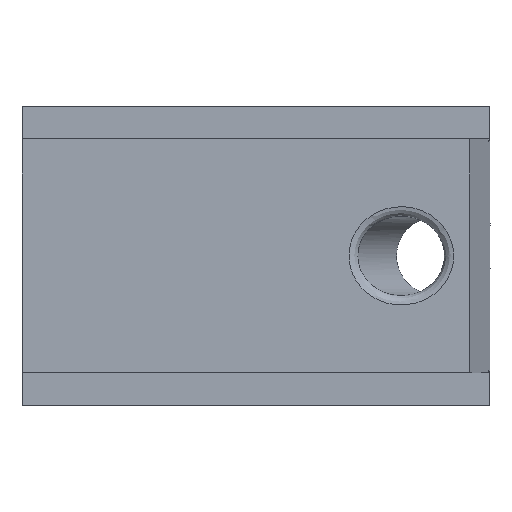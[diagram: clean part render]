
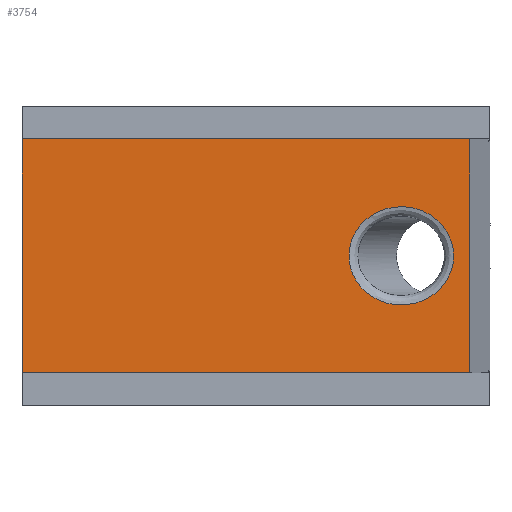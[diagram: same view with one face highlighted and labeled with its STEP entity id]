
A CAD part, top view. The second image highlights one B-rep face of the part: STEP entity #3754.
In plain terms, the highlighted planar face has unit normal (0, 0, 1).
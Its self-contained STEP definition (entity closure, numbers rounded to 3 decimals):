
#412 = LINE ( 'NONE', #1958, #1411 ) ;
#926 = DIRECTION ( 'NONE',  ( -1., 0., 0. ) ) ;
#985 = CARTESIAN_POINT ( 'NONE',  ( 46.111, -10.5, 12. ) ) ;
#1097 = CARTESIAN_POINT ( 'NONE',  ( 34.937, 0., 12. ) ) ;
#1411 = VECTOR ( 'NONE', #2015, 1000. ) ;
#1766 = CARTESIAN_POINT ( 'NONE',  ( 46.111, 0., 12. ) ) ;
#1956 = CARTESIAN_POINT ( 'NONE',  ( 0., -12.5, 12. ) ) ;
#1958 = CARTESIAN_POINT ( 'NONE',  ( 0., 12.5, 12. ) ) ;
#1984 = CARTESIAN_POINT ( 'NONE',  ( 46.111, 0., 12. ) ) ;
#2015 = DIRECTION ( 'NONE',  ( 0., -1., 0. ) ) ;
#2022 = VERTEX_POINT ( 'NONE', #5601 ) ;
#2429 = VERTEX_POINT ( 'NONE', #1956 ) ;
#2642 = EDGE_CURVE ( 'NONE', #7510, #10358, #7242, .T. ) ;
#2699 = CARTESIAN_POINT ( 'NONE',  ( 34.937, 10.5, 12. ) ) ;
#2732 = CARTESIAN_POINT ( 'NONE',  ( 47.816, 12.5, 12. ) ) ;
#3408 = CARTESIAN_POINT ( 'NONE',  ( 46.111, 10.5, 12. ) ) ;
#3511 = PLANE ( 'NONE',  #3572 ) ;
#3572 = AXIS2_PLACEMENT_3D ( 'NONE', #9228, #10049, #926 ) ;
#3666 = EDGE_LOOP ( 'NONE', ( #10582 ) ) ;
#3754 = ADVANCED_FACE ( 'NONE', ( #5870, #5925 ), #3511, .F. ) ;
#4029 = CARTESIAN_POINT ( 'NONE',  ( 47.816, 12.5, 12. ) ) ;
#4111 = EDGE_CURVE ( 'NONE', #10358, #2022, #9541, .T. ) ;
#4205 = LINE ( 'NONE', #7554, #6455 ) ;
#4267 = VECTOR ( 'NONE', #7035, 1000. ) ;
#5117 = CARTESIAN_POINT ( 'NONE',  ( 34.937, -10.5, 12. ) ) ;
#5419 = DIRECTION ( 'NONE',  ( 0., -1., 0. ) ) ;
#5442 = CARTESIAN_POINT ( 'NONE',  ( 0., 12.5, 12. ) ) ;
#5601 = CARTESIAN_POINT ( 'NONE',  ( 47.816, -12.5, 12. ) ) ;
#5870 = FACE_BOUND ( 'NONE', #3666, .T. ) ;
#5918 = EDGE_CURVE ( 'NONE', #2429, #2022, #4205, .T. ) ;
#5925 = FACE_OUTER_BOUND ( 'NONE', #6243, .T. ) ;
#6243 = EDGE_LOOP ( 'NONE', ( #8984, #8402, #6946, #8055 ) ) ;
#6317 = CARTESIAN_POINT ( 'NONE',  ( 46.111, 0., 12. ) ) ;
#6455 = VECTOR ( 'NONE', #9368, 1000. ) ;
#6867 = EDGE_CURVE ( 'NONE', #9622, #9622, #9559, .T. ) ;
#6946 = ORIENTED_EDGE ( 'NONE', *, *, #2642, .F. ) ;
#7035 = DIRECTION ( 'NONE',  ( 1., 0., 0. ) ) ;
#7242 = LINE ( 'NONE', #5442, #4267 ) ;
#7510 = VERTEX_POINT ( 'NONE', #8642 ) ;
#7554 = CARTESIAN_POINT ( 'NONE',  ( 0., -12.5, 12. ) ) ;
#8055 = ORIENTED_EDGE ( 'NONE', *, *, #9221, .T. ) ;
#8224 = VECTOR ( 'NONE', #5419, 1000. ) ;
#8402 = ORIENTED_EDGE ( 'NONE', *, *, #4111, .F. ) ;
#8642 = CARTESIAN_POINT ( 'NONE',  ( 0., 12.5, 12. ) ) ;
#8984 = ORIENTED_EDGE ( 'NONE', *, *, #5918, .T. ) ;
#9221 = EDGE_CURVE ( 'NONE', #7510, #2429, #412, .T. ) ;
#9228 = CARTESIAN_POINT ( 'NONE',  ( 0., 12.5, 12. ) ) ;
#9368 = DIRECTION ( 'NONE',  ( 1., 0., 0. ) ) ;
#9541 = LINE ( 'NONE', #2732, #8224 ) ;
#9559 =( BOUNDED_CURVE ( )  B_SPLINE_CURVE ( 3, ( #1766, #985, #5117, #1097, #2699, #3408, #1984 ),
 .UNSPECIFIED., .T., .F. ) 
 B_SPLINE_CURVE_WITH_KNOTS ( ( 4, 3, 4 ),
 ( 0., 3.142, 6.283 ),
 .UNSPECIFIED. ) 
 CURVE ( )  GEOMETRIC_REPRESENTATION_ITEM ( )  RATIONAL_B_SPLINE_CURVE ( ( 1., 0.333, 0.333, 1., 0.333, 0.333, 1. ) ) 
 REPRESENTATION_ITEM ( '' )  );
#9622 = VERTEX_POINT ( 'NONE', #6317 ) ;
#10049 = DIRECTION ( 'NONE',  ( 0., 0., -1. ) ) ;
#10358 = VERTEX_POINT ( 'NONE', #4029 ) ;
#10582 = ORIENTED_EDGE ( 'NONE', *, *, #6867, .T. ) ;
